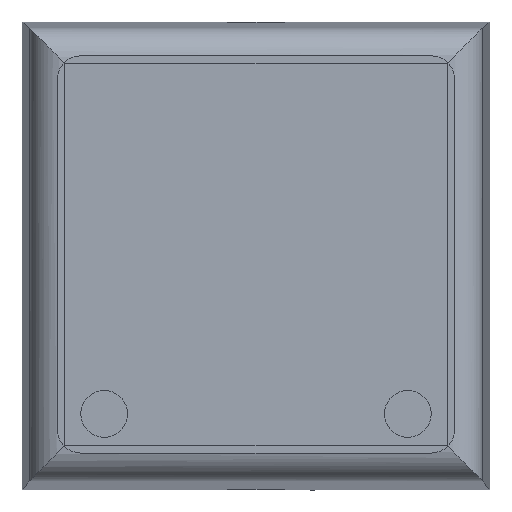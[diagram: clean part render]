
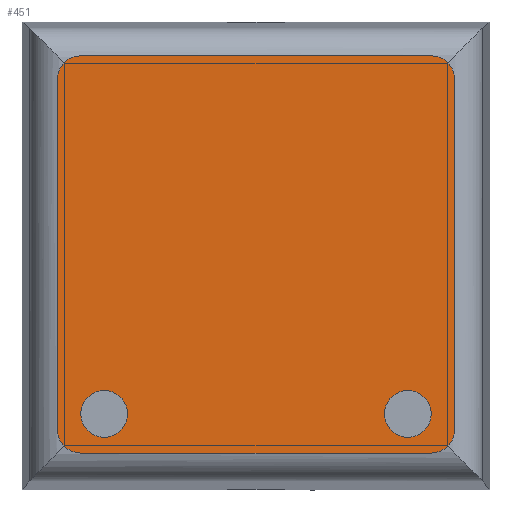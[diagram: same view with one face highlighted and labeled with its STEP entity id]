
A CAD part, top view. The second image highlights one B-rep face of the part: STEP entity #451.
In plain terms, the highlighted planar face has unit normal (0, 0, 1).
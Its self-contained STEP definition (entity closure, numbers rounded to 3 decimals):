
#73=CARTESIAN_POINT('',(-17.0,15.0,68.24));
#74=VERTEX_POINT('',#73);
#75=CARTESIAN_POINT('',(-15.,17.0,68.24));
#76=VERTEX_POINT('',#75);
#77=CARTESIAN_POINT('',(-15.,15.0,68.24));
#78=DIRECTION('',(0.,0.,-1.0));
#79=DIRECTION('',(-0.707,0.707,0.));
#80=AXIS2_PLACEMENT_3D('',#77,#78,#79);
#81=CIRCLE('',#80,2.0);
#82=EDGE_CURVE('',#74,#76,#81,.T.);
#124=CARTESIAN_POINT('',(-17.0,-15.,68.24));
#125=VERTEX_POINT('',#124);
#132=CARTESIAN_POINT('',(-17.0,-15.0,68.24));
#133=DIRECTION('',(0.0,1.0,0.));
#134=VECTOR('',#133,30.0);
#135=LINE('',#132,#134);
#136=EDGE_CURVE('',#125,#74,#135,.T.);
#239=CARTESIAN_POINT('',(15.0,17.0,68.24));
#240=VERTEX_POINT('',#239);
#241=CARTESIAN_POINT('',(17.0,15.,68.24));
#242=VERTEX_POINT('',#241);
#243=CARTESIAN_POINT('',(15.0,15.,68.24));
#244=DIRECTION('',(0.,0.,-1.0));
#245=DIRECTION('',(0.707,0.707,0.));
#246=AXIS2_PLACEMENT_3D('',#243,#244,#245);
#247=CIRCLE('',#246,2.0);
#248=EDGE_CURVE('',#240,#242,#247,.T.);
#272=CARTESIAN_POINT('',(17.0,-15.0,68.24));
#273=VERTEX_POINT('',#272);
#274=CARTESIAN_POINT('',(17.0,15.0,68.24));
#275=DIRECTION('',(0.0,-1.0,0.));
#276=VECTOR('',#275,30.0);
#277=LINE('',#274,#276);
#278=EDGE_CURVE('',#242,#273,#277,.T.);
#295=CARTESIAN_POINT('',(15.,-17.0,68.24));
#296=VERTEX_POINT('',#295);
#297=CARTESIAN_POINT('',(15.,-15.0,68.24));
#298=DIRECTION('',(0.,0.,-1.0));
#299=DIRECTION('',(0.707,-0.707,0.));
#300=AXIS2_PLACEMENT_3D('',#297,#298,#299);
#301=CIRCLE('',#300,2.0);
#302=EDGE_CURVE('',#273,#296,#301,.T.);
#320=CARTESIAN_POINT('',(-15.0,-17.0,68.24));
#321=VERTEX_POINT('',#320);
#322=CARTESIAN_POINT('',(-15.0,-15.,68.24));
#323=DIRECTION('',(0.,0.,-1.0));
#324=DIRECTION('',(-0.707,-0.707,0.));
#325=AXIS2_PLACEMENT_3D('',#322,#323,#324);
#326=CIRCLE('',#325,2.0);
#327=EDGE_CURVE('',#321,#125,#326,.T.);
#356=CARTESIAN_POINT('',(15.0,-13.65,68.24));
#357=VERTEX_POINT('',#356);
#358=CARTESIAN_POINT('',(13.0,-13.65,68.24));
#359=DIRECTION('',(0.0,0.,-1.0));
#360=DIRECTION('',(1.0,0.0,0.0));
#361=AXIS2_PLACEMENT_3D('',#358,#359,#360);
#362=CIRCLE('',#361,2.0);
#363=EDGE_CURVE('',#357,#357,#362,.T.);
#384=CARTESIAN_POINT('',(-11.0,-13.65,68.24));
#385=VERTEX_POINT('',#384);
#386=CARTESIAN_POINT('',(-13.0,-13.65,68.24));
#387=DIRECTION('',(0.0,0.,-1.0));
#388=DIRECTION('',(1.0,0.0,0.0));
#389=AXIS2_PLACEMENT_3D('',#386,#387,#388);
#390=CIRCLE('',#389,2.0);
#391=EDGE_CURVE('',#385,#385,#390,.T.);
#402=CARTESIAN_POINT('',(15.0,-17.0,68.24));
#403=DIRECTION('',(-1.0,0.0,0.0));
#404=VECTOR('',#403,30.0);
#405=LINE('',#402,#404);
#406=EDGE_CURVE('',#296,#321,#405,.T.);
#419=CARTESIAN_POINT('',(-15.0,17.0,68.24));
#420=DIRECTION('',(1.0,0.0,0.0));
#421=VECTOR('',#420,30.0);
#422=LINE('',#419,#421);
#423=EDGE_CURVE('',#76,#240,#422,.T.);
#430=CARTESIAN_POINT('',(0.,0.,68.24));
#431=DIRECTION('',(0.,0.,1.0));
#432=DIRECTION('',(1.0,0.0,0.0));
#433=AXIS2_PLACEMENT_3D('',#430,#431,#432);
#434=PLANE('',#433);
#435=ORIENTED_EDGE('',*,*,#82,.F.);
#436=ORIENTED_EDGE('',*,*,#136,.F.);
#437=ORIENTED_EDGE('',*,*,#327,.F.);
#438=ORIENTED_EDGE('',*,*,#406,.F.);
#439=ORIENTED_EDGE('',*,*,#302,.F.);
#440=ORIENTED_EDGE('',*,*,#278,.F.);
#441=ORIENTED_EDGE('',*,*,#248,.F.);
#442=ORIENTED_EDGE('',*,*,#423,.F.);
#443=EDGE_LOOP('',(#435,#436,#437,#438,#439,#440,#441,#442));
#444=FACE_OUTER_BOUND('',#443,.T.);
#445=ORIENTED_EDGE('',*,*,#363,.T.);
#446=EDGE_LOOP('',(#445));
#447=FACE_BOUND('',#446,.T.);
#448=ORIENTED_EDGE('',*,*,#391,.T.);
#449=EDGE_LOOP('',(#448));
#450=FACE_BOUND('',#449,.T.);
#451=ADVANCED_FACE('',(#444,#447,#450),#434,.T.);
